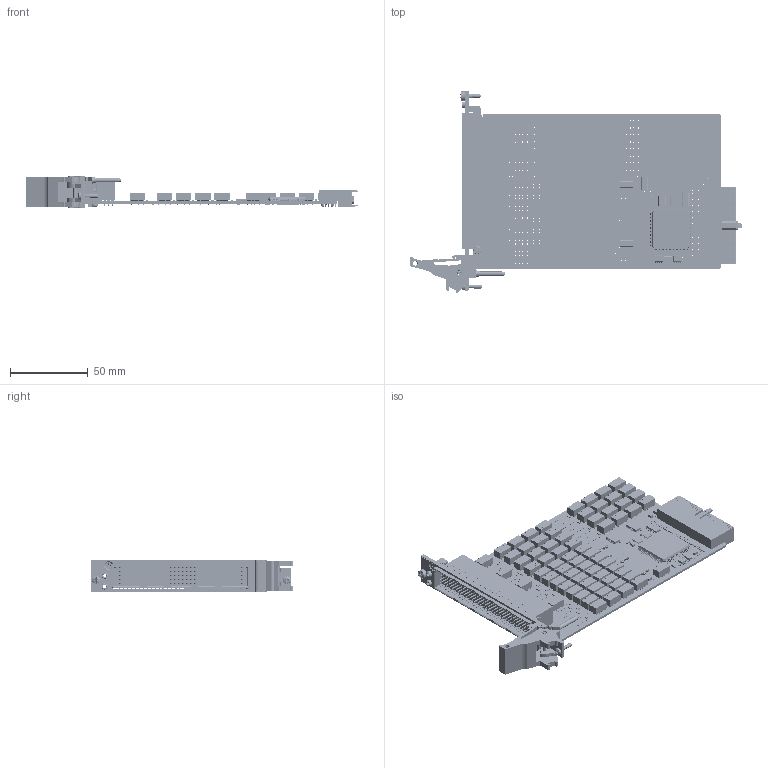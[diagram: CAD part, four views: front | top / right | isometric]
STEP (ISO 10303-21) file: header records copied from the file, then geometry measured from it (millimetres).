
FILE_DESCRIPTION (( 'STEP AP214' ), '1' );
FILE_NAME ('40-614C-006 PXI 2A Multiplexer, 4-Bank, 32-Channel 1-Pole.step', '2020-05-19T11:46:05', ( '' ), ( '' ), 'SwSTEP 2.0', 'SolidWorks 2019', '' );
FILE_SCHEMA (( 'AUTOMOTIVE_DESIGN' ));
Length unit declared in the file: millimetre
Products named in the file (55): C-FX-165 Handle Finger; C-CN-161 Pin_Row C; C-SC-035 Transistor SMT; C-CN-161 Pin_Row A; C-CP-038 Cap 47nF 50V 0805 (Reel of 4K); C-FX-456 PXI 1-Slot Mtg Block DIN 41612; C-RS-148 Res 1K 0603 1-16W 1% 100PPM; A-FP-499 PXI 3U 1-Slot 160 Way DIN 41612; L-FX-165 PXI Handle Label; A-PC-1225-E HD MUX; C-FP-499 PXI 3U 1-Slot 160 Way DIN 41612; L-FP-499 Label for C-FP-499 assy; C-CN-161 Pin_Row E; C-RS-152 Res 10K 0603 1-16W 1% 300PPM; C-RS-320 Res 330R SIZE 0603 SMT 1%; C-RS-529 RES 10R 0603 1-16W 1% 100PPM; C-BK-026 Bush Front Panel Mounting; C-FX-101 Screw, M2.5 x 6, Pan Hd, Pozi, Steel, BZP_ISO 7045 - M2.5 x 6 - Z --- 6N; C-IC-124 16-Bit Constant Current Sink Driver; C-IC-429 TSSOP 20PIN SD; C-FX-165 Handle Pin; C-RS-1320 RES 0R 0805 2A5 JUMPER; C-FX-028 Nut, M2.5, Hex, Steel, BZP_C-FX-028 M2,5 Nut; C-CP-055 Cap 0.1uF 50v; C-IC-087 IC 74HCT32D Logic IC Smt_No Text; C-FX-544 2.5 Self Clinching Tourque nut; C-RS-101 RES 4X1K 1206 1-16W 5% 250PPM; C-IC-155 93LC66B-SN (SO8)_No Text; C-CN-734 DIN 41612 160Way R-A Modified_Vertical Slot Trimmed; C-FX-165 Handle Body; A-FP-499-L1 PXI 3U 1SLT 160Way FP Full Assembly; C-RS-079 Res N-W 4x10K 1206 CRA3A4E10K; C-CN-161 Pin_Row B; L-FP-499-# Label for C-FP-499_Vychoz｡; C-IC-056 IC TL7705ACD SMT_No Text; C-CP-141 CAP 10UF 1206 35V X5R 10%; C-RS-147 Res 100R 0603 1-16W 1% 100PPM; C-RL-257 AXICOM IM23KS-5V Relay_Text Shown; C-IC-163 PLX 9030 (PQFP176); Z-FX-2001 FP Fixing - Bush + Screw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
Assembly tree (451 placements, depth 5):
  40-614C-006 PXI 2A Multiplexer, 4-Bank, 32-Channel 1-Pole
    A-PC-1225-E HD MUX
      A-PC-1225-E-# HD MUX
        C-PC-1225 HD MUX
        C-CP-038 Cap 47nF 50V 0805 (Reel of 4K)  x80
        C-RS-1320 RES 0R 0805 2A5 JUMPER  x24
        C-IC-124 16-Bit Constant Current Sink Driver  x5
        C-RS-320 Res 330R SIZE 0603 SMT 1%  x18
        C-CP-055 Cap 0.1uF 50v  x17
        C-RS-152 Res 10K 0603 1-16W 1% 300PPM  x4
        C-RS-148 Res 1K 0603 1-16W 1% 100PPM  x2
        C-RS-147 Res 100R 0603 1-16W 1% 100PPM
        C-CP-141 CAP 10UF 1206 35V X5R 10%  x7
        C-RS-079 Res N-W 4x10K 1206 CRA3A4E10K  x2
        C-RS-101 RES 4X1K 1206 1-16W 5% 250PPM  x10
        C-RS-102 RES 4x10R 1206 1-16W 5% 200PPM  x12
        C-SC-035 Transistor SMT
        C-IC-163 PLX 9030 (PQFP176)
        C-CN-355 Compact pci connector 3
        C-CP-190 CAP 33000pF 3 TERMINAL 6A
        C-IC-155 93LC66B-SN (SO8)_No Text
        C-IC-430 MM74HCT273MTC
        C-IC-087 IC 74HCT32D Logic IC Smt_No Text
        C-RL-257 AXICOM IM23KS-5V Relay_Text Shown  x69
        C-RS-529 RES 10R 0603 1-16W 1% 100PPM
        C-IC-056 IC TL7705ACD SMT_No Text
        C-IC-194 EPROM M93C86WMN6P(S08)ST MICRO
        C-IC-429 TSSOP 20PIN SD
    C-CN-734 DIN 41612 160Way R-A Modified_Vertical Slot Trimmed
      C-CN-161 Housing
      C-CN-161 Pin_Row E  x32
      C-CN-161 Pin_Row D  x32
      C-CN-161 Pin_Row C  x32
      C-CN-161 Pin_Row B  x32
      C-CN-161 Pin_Row A  x32
    A-FP-499-L1 PXI 3U 1SLT 160Way FP Full Assembly
      A-FP-499 PXI 3U 1-Slot 160 Way DIN 41612
        C-FP-499 PXI 3U 1-Slot 160 Way DIN 41612
          C-BP-015 PXI 3U x 1 Slot Blank Panel
        L-FP-499 Label for C-FP-499 assy
          L-FP-499-# Label for C-FP-499_Vychoz｡
        C-FX-544 2.5 Self Clinching Tourque nut  x2
      C-FX-165 CPCI Ejector Handle
        C-FX-165 Handle Body
        C-FX-165 Handle Finger
        C-FX-165 Handle Pin
        P-FX-017 M2,5 Collar Posi-Slot Screw
        L-FX-165 PXI Handle Label
      C-FX-456 PXI 1-Slot Mtg Block DIN 41612
      C-FX-042 Screw M2.5x6 CSK Pozi_M 2.5x06 - C-FX-042
      Z-FX-2001 FP Fixing - Bush + Screw
        C-BK-026 Bush Front Panel Mounting
        P-FX-017 M2,5 Collar Posi-Slot Screw
      C-FX-101 Screw, M2.5 x 6, Pan Hd, Pozi, Steel, BZP_ISO 7045 - M2.5 x 6 - Z --- 6N
    C-FX-101 Screw, M2.5 x 6, Pan Hd, Pozi, Steel, BZP_ISO 7045 - M2.5 x 6 - Z --- 6N
    C-FX-297 Screw, M2.5 x 10, Pan Hd, Pozi, Steel, BZP_ISO 7045 - M2.5 x 8 - Z --- 6N  x2
    C-FX-028 Nut, M2.5, Hex, Steel, BZP_C-FX-028 M2,5 Nut
Bounding box: 213.7 x 129.63 x 20 mm (x, y, z)
Volume: 89867.3 mm3; surface area: 107100.6 mm2
Topology: 448 solids, 471 shells, 40521 faces, 106734 edges, 70084 vertices
Faces by surface type: plane 27457, cylinder 6417, bspline 5725, cone 844, torus 66, sphere 12
Entity records: 517174 total; most frequent: CARTESIAN_POINT 91868, ORIENTED_EDGE 67630, DIRECTION 66847, EDGE_CURVE 33817, AXIS2_PLACEMENT_3D 22913, VERTEX_POINT 21936, LINE 21021, VECTOR 21021
